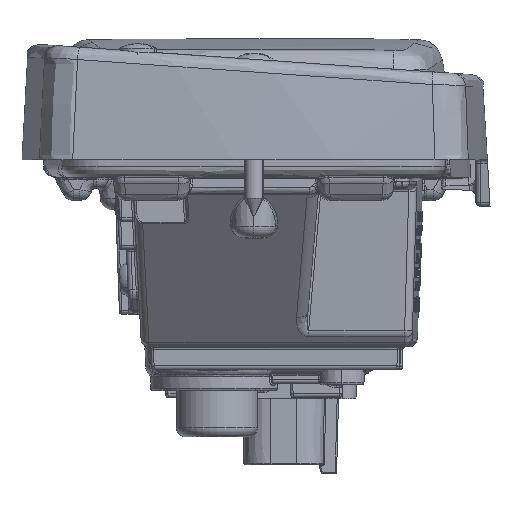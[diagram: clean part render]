
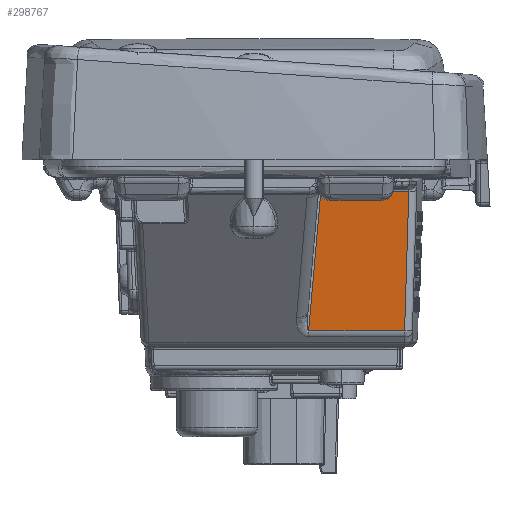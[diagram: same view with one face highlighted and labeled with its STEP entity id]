
A CAD part, left-side view. The second image highlights one B-rep face of the part: STEP entity #298767.
In plain terms, the highlighted planar face has unit normal (-0.996, 0, -0.087).
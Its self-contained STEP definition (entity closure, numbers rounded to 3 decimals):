
#227188=VERTEX_POINT('',#227187) ;
#227250=VERTEX_POINT('',#227249) ;
#298730=VERTEX_POINT('',#298729) ;
#298754=VERTEX_POINT('',#298753) ;
#298734=VECTOR('Line Direction',#298733,1.) ;
#298751=VECTOR('Line Direction',#298750,1.) ;
#298758=VECTOR('Line Direction',#298757,1.) ;
#298733=DIRECTION('Vector Direction',(0.,-1.,0.)) ;
#298745=DIRECTION('Axis2P3D Direction',(-0.996,-0.,-0.087)) ;
#298746=DIRECTION('Axis2P3D XDirection',(0.087,0.,-0.996)) ;
#298750=DIRECTION('Vector Direction',(-0.087,-0.087,0.992)) ;
#298757=DIRECTION('Vector Direction',(0.,-1.,0.)) ;
#227187=CARTESIAN_POINT('Vertex',(-45.96,-33.436,8.544)) ;
#227243=CARTESIAN_POINT('Control Point',(-43.328,-32.528,-21.544)) ;
#227244=CARTESIAN_POINT('Control Point',(-43.854,-32.71,-15.527)) ;
#227245=CARTESIAN_POINT('Control Point',(-44.381,-32.892,-9.509)) ;
#227246=CARTESIAN_POINT('Control Point',(-44.907,-33.074,-3.492)) ;
#227247=CARTESIAN_POINT('Control Point',(-45.434,-33.255,2.526)) ;
#227248=CARTESIAN_POINT('Control Point',(-45.96,-33.436,8.544)) ;
#227249=CARTESIAN_POINT('Vertex',(-43.328,-32.528,-21.544)) ;
#298729=CARTESIAN_POINT('Vertex',(-45.96,-14.458,8.544)) ;
#298732=CARTESIAN_POINT('Line Origine',(-45.96,-27.574,8.544)) ;
#298744=CARTESIAN_POINT('Axis2P3D Location',(-46.,0.,9.)) ;
#298749=CARTESIAN_POINT('Line Origine',(-44.644,-13.142,-6.5)) ;
#298753=CARTESIAN_POINT('Vertex',(-43.328,-11.826,-21.544)) ;
#298756=CARTESIAN_POINT('Line Origine',(-43.328,-22.177,-21.544)) ;
#298747=AXIS2_PLACEMENT_3D('Plane Axis2P3D',#298744,#298745,#298746) ;
#298735=LINE('Line',#298732,#298734) ;
#298752=LINE('Line',#298749,#298751) ;
#298759=LINE('Line',#298756,#298758) ;
#298748=PLANE('',#298747) ;
#227251=EDGE_CURVE('',#227188,#227250,#227242,.F.) ;
#298736=EDGE_CURVE('',#227188,#298730,#298735,.F.) ;
#298755=EDGE_CURVE('',#298754,#298730,#298752,.T.) ;
#298760=EDGE_CURVE('',#227250,#298754,#298759,.F.) ;
#298762=ORIENTED_EDGE('',*,*,#298736,.T.) ;
#298763=ORIENTED_EDGE('',*,*,#298755,.F.) ;
#298764=ORIENTED_EDGE('',*,*,#298760,.F.) ;
#298765=ORIENTED_EDGE('',*,*,#227251,.F.) ;
#298761=EDGE_LOOP('',(#298762,#298763,#298764,#298765)) ;
#298767=ADVANCED_FACE('Lens',(#298766),#298748,.T.) ;
#227242=B_SPLINE_CURVE_WITH_KNOTS('',5,(#227243,#227244,#227245,#227246,#227247,#227248),.UNSPECIFIED.,.F.,.U.,(6,6),(15.64,58.374),.UNIFORM_KNOTS.) ;
#298766=FACE_OUTER_BOUND('',#298761,.T.) ;
